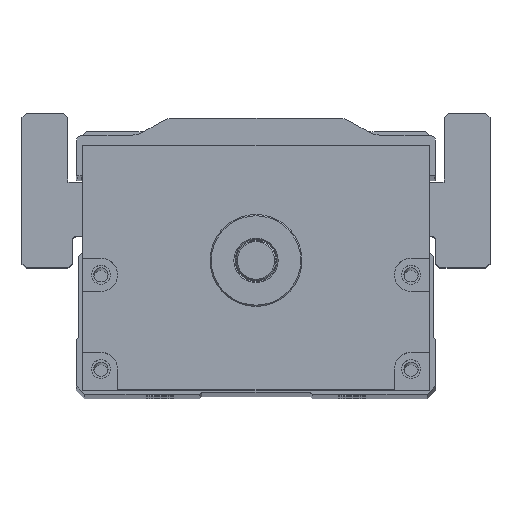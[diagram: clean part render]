
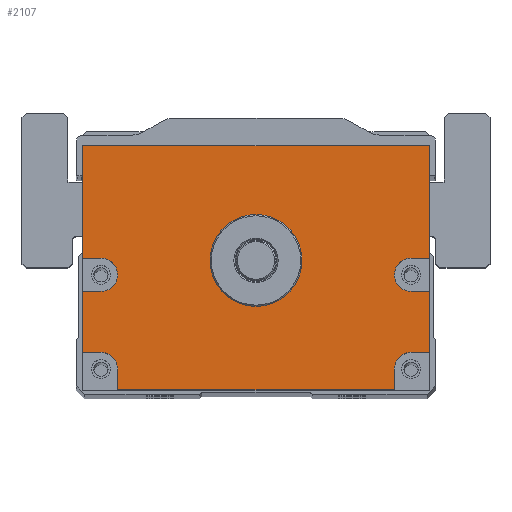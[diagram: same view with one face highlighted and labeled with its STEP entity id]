
A CAD part, top view. The second image highlights one B-rep face of the part: STEP entity #2107.
In plain terms, the highlighted planar face has unit normal (0, 0, 1).
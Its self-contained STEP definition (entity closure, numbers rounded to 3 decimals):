
#1030=FACE_BOUND('',#3783,.T.);
#1031=FACE_BOUND('',#3784,.T.);
#1558=CIRCLE('',#12641,11.);
#1569=CIRCLE('',#12655,4.);
#1570=CIRCLE('',#12656,4.);
#1571=CIRCLE('',#12657,4.);
#1572=CIRCLE('',#12658,4.);
#2107=ADVANCED_FACE('',(#1030,#1031),#2687,.T.);
#2687=PLANE('',#12659);
#3783=EDGE_LOOP('',(#5549,#5550,#5551,#5552,#5553,#5554,#5555,#5556,#5557,
#5558,#5559,#5560,#5561,#5562,#5563,#5564,#5565,#5566));
#3784=EDGE_LOOP('',(#5567));
#5549=ORIENTED_EDGE('',*,*,#9472,.F.);
#5550=ORIENTED_EDGE('',*,*,#9473,.T.);
#5551=ORIENTED_EDGE('',*,*,#9474,.F.);
#5552=ORIENTED_EDGE('',*,*,#9475,.F.);
#5553=ORIENTED_EDGE('',*,*,#9476,.F.);
#5554=ORIENTED_EDGE('',*,*,#9477,.T.);
#5555=ORIENTED_EDGE('',*,*,#9468,.T.);
#5556=ORIENTED_EDGE('',*,*,#9478,.T.);
#5557=ORIENTED_EDGE('',*,*,#9479,.F.);
#5558=ORIENTED_EDGE('',*,*,#9480,.F.);
#5559=ORIENTED_EDGE('',*,*,#9481,.F.);
#5560=ORIENTED_EDGE('',*,*,#9482,.T.);
#5561=ORIENTED_EDGE('',*,*,#9483,.F.);
#5562=ORIENTED_EDGE('',*,*,#9484,.F.);
#5563=ORIENTED_EDGE('',*,*,#9485,.F.);
#5564=ORIENTED_EDGE('',*,*,#9486,.T.);
#5565=ORIENTED_EDGE('',*,*,#9487,.F.);
#5566=ORIENTED_EDGE('',*,*,#9488,.F.);
#5567=ORIENTED_EDGE('',*,*,#9454,.T.);
#8132=VERTEX_POINT('',#26424);
#8145=VERTEX_POINT('',#26452);
#8146=VERTEX_POINT('',#26454);
#8149=VERTEX_POINT('',#26462);
#8150=VERTEX_POINT('',#26463);
#8151=VERTEX_POINT('',#26465);
#8152=VERTEX_POINT('',#26467);
#8153=VERTEX_POINT('',#26469);
#8154=VERTEX_POINT('',#26471);
#8155=VERTEX_POINT('',#26474);
#8156=VERTEX_POINT('',#26476);
#8157=VERTEX_POINT('',#26478);
#8158=VERTEX_POINT('',#26480);
#8159=VERTEX_POINT('',#26482);
#8160=VERTEX_POINT('',#26484);
#8161=VERTEX_POINT('',#26486);
#8162=VERTEX_POINT('',#26488);
#8163=VERTEX_POINT('',#26490);
#8164=VERTEX_POINT('',#26492);
#9454=EDGE_CURVE('',#8132,#8132,#1558,.T.);
#9468=EDGE_CURVE('',#8146,#8145,#10796,.T.);
#9472=EDGE_CURVE('',#8149,#8150,#10798,.T.);
#9473=EDGE_CURVE('',#8149,#8151,#10799,.T.);
#9474=EDGE_CURVE('',#8152,#8151,#10800,.T.);
#9475=EDGE_CURVE('',#8153,#8152,#1569,.T.);
#9476=EDGE_CURVE('',#8154,#8153,#10801,.T.);
#9477=EDGE_CURVE('',#8154,#8146,#10802,.T.);
#9478=EDGE_CURVE('',#8145,#8155,#10803,.T.);
#9479=EDGE_CURVE('',#8156,#8155,#10804,.T.);
#9480=EDGE_CURVE('',#8157,#8156,#1570,.T.);
#9481=EDGE_CURVE('',#8158,#8157,#10805,.T.);
#9482=EDGE_CURVE('',#8158,#8159,#10806,.T.);
#9483=EDGE_CURVE('',#8160,#8159,#10807,.T.);
#9484=EDGE_CURVE('',#8161,#8160,#1571,.T.);
#9485=EDGE_CURVE('',#8162,#8161,#10808,.T.);
#9486=EDGE_CURVE('',#8162,#8163,#10809,.T.);
#9487=EDGE_CURVE('',#8164,#8163,#10810,.T.);
#9488=EDGE_CURVE('',#8150,#8164,#1572,.T.);
#10796=LINE('',#26453,#11643);
#10798=LINE('',#26461,#11645);
#10799=LINE('',#26464,#11646);
#10800=LINE('',#26466,#11647);
#10801=LINE('',#26470,#11648);
#10802=LINE('',#26472,#11649);
#10803=LINE('',#26473,#11650);
#10804=LINE('',#26475,#11651);
#10805=LINE('',#26479,#11652);
#10806=LINE('',#26481,#11653);
#10807=LINE('',#26483,#11654);
#10808=LINE('',#26487,#11655);
#10809=LINE('',#26489,#11656);
#10810=LINE('',#26491,#11657);
#11643=VECTOR('',#14455,1.);
#11645=VECTOR('',#14463,1.);
#11646=VECTOR('',#14464,1.);
#11647=VECTOR('',#14465,1.);
#11648=VECTOR('',#14468,1.);
#11649=VECTOR('',#14469,1.);
#11650=VECTOR('',#14470,1.);
#11651=VECTOR('',#14471,1.);
#11652=VECTOR('',#14474,1.);
#11653=VECTOR('',#14475,1.);
#11654=VECTOR('',#14476,1.);
#11655=VECTOR('',#14479,1.);
#11656=VECTOR('',#14480,1.);
#11657=VECTOR('',#14481,1.);
#12641=AXIS2_PLACEMENT_3D('',#26423,#14428,#14429);
#12655=AXIS2_PLACEMENT_3D('',#26468,#14466,#14467);
#12656=AXIS2_PLACEMENT_3D('',#26477,#14472,#14473);
#12657=AXIS2_PLACEMENT_3D('',#26485,#14477,#14478);
#12658=AXIS2_PLACEMENT_3D('',#26493,#14482,#14483);
#12659=AXIS2_PLACEMENT_3D('',#26494,#14484,#14485);
#14428=DIRECTION('',(0.,0.,-1.));
#14429=DIRECTION('',(1.,0.,0.));
#14455=DIRECTION('',(-1.,0.,0.));
#14463=DIRECTION('',(-1.,0.,0.));
#14464=DIRECTION('',(0.,1.,0.));
#14465=DIRECTION('',(1.,0.,0.));
#14466=DIRECTION('',(0.,0.,1.));
#14467=DIRECTION('',(1.,0.,0.));
#14468=DIRECTION('',(-1.,0.,0.));
#14469=DIRECTION('',(0.,1.,0.));
#14470=DIRECTION('',(0.,-1.,0.));
#14471=DIRECTION('',(-1.,0.,0.));
#14472=DIRECTION('',(0.,0.,1.));
#14473=DIRECTION('',(1.,0.,0.));
#14474=DIRECTION('',(1.,0.,0.));
#14475=DIRECTION('',(0.,-1.,0.));
#14476=DIRECTION('',(-1.,0.,0.));
#14477=DIRECTION('',(0.,0.,1.));
#14478=DIRECTION('',(1.,0.,0.));
#14479=DIRECTION('',(0.,1.,0.));
#14480=DIRECTION('',(1.,0.,0.));
#14481=DIRECTION('',(0.,-1.,0.));
#14482=DIRECTION('',(0.,0.,1.));
#14483=DIRECTION('',(1.,0.,0.));
#14484=DIRECTION('',(0.,0.,1.));
#14485=DIRECTION('',(1.,0.,0.));
#26423=CARTESIAN_POINT('',(300.,0.,482.5));
#26424=CARTESIAN_POINT('',(311.,0.,482.5));
#26452=CARTESIAN_POINT('',(258.5,27.5,482.5));
#26453=CARTESIAN_POINT('',(341.5,27.5,482.5));
#26454=CARTESIAN_POINT('',(341.5,27.5,482.5));
#26461=CARTESIAN_POINT('',(341.5,-22.,482.5));
#26462=CARTESIAN_POINT('',(341.5,-22.,482.5));
#26463=CARTESIAN_POINT('',(337.115,-22.,482.5));
#26464=CARTESIAN_POINT('',(341.5,-31.,482.5));
#26465=CARTESIAN_POINT('',(341.5,-7.431,482.5));
#26466=CARTESIAN_POINT('',(341.5,-7.431,482.5));
#26467=CARTESIAN_POINT('',(337.115,-7.431,482.5));
#26468=CARTESIAN_POINT('',(337.115,-3.431,482.5));
#26469=CARTESIAN_POINT('',(337.115,0.569,482.5));
#26470=CARTESIAN_POINT('',(341.5,0.569,482.5));
#26471=CARTESIAN_POINT('',(341.5,0.569,482.5));
#26472=CARTESIAN_POINT('',(341.5,-31.,482.5));
#26473=CARTESIAN_POINT('',(258.5,27.5,482.5));
#26474=CARTESIAN_POINT('',(258.5,0.569,482.5));
#26475=CARTESIAN_POINT('',(341.5,0.569,482.5));
#26476=CARTESIAN_POINT('',(262.885,0.569,482.5));
#26477=CARTESIAN_POINT('',(262.885,-3.431,482.5));
#26478=CARTESIAN_POINT('',(262.885,-7.431,482.5));
#26479=CARTESIAN_POINT('',(341.5,-7.431,482.5));
#26480=CARTESIAN_POINT('',(258.5,-7.431,482.5));
#26481=CARTESIAN_POINT('',(258.5,27.5,482.5));
#26482=CARTESIAN_POINT('',(258.5,-22.,482.5));
#26483=CARTESIAN_POINT('',(341.5,-22.,482.5));
#26484=CARTESIAN_POINT('',(262.885,-22.,482.5));
#26485=CARTESIAN_POINT('',(262.885,-26.,482.5));
#26486=CARTESIAN_POINT('',(266.885,-26.,482.5));
#26487=CARTESIAN_POINT('',(266.885,-31.,482.5));
#26488=CARTESIAN_POINT('',(266.885,-31.,482.5));
#26489=CARTESIAN_POINT('',(258.5,-31.,482.5));
#26490=CARTESIAN_POINT('',(333.115,-31.,482.5));
#26491=CARTESIAN_POINT('',(333.115,-31.,482.5));
#26492=CARTESIAN_POINT('',(333.115,-26.,482.5));
#26493=CARTESIAN_POINT('',(337.115,-26.,482.5));
#26494=CARTESIAN_POINT('',(341.5,-31.,482.5));
